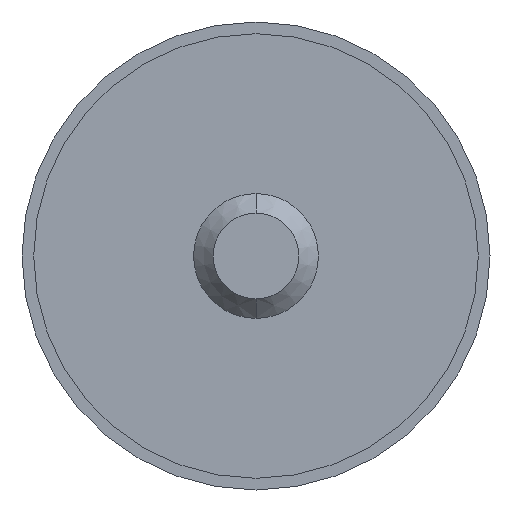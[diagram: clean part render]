
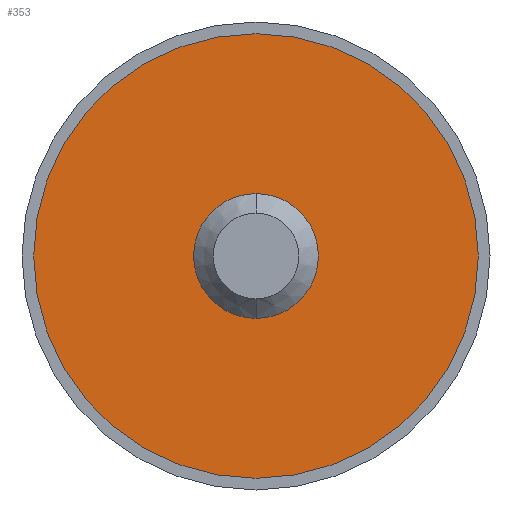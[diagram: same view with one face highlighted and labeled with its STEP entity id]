
A CAD part, front view. The second image highlights one B-rep face of the part: STEP entity #353.
In plain terms, the highlighted planar face has unit normal (0, -1, 0).
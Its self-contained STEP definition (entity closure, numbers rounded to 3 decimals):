
#83 = DIRECTION ( 'NONE',  ( 0., 0., -1. ) ) ;
#114 = CIRCLE ( 'NONE', #1578, 14.25 ) ;
#261 = DIRECTION ( 'NONE',  ( 0., 1., 0. ) ) ;
#353 = ADVANCED_FACE ( 'NONE', ( #1132, #1086 ), #2138, .F. ) ;
#403 = AXIS2_PLACEMENT_3D ( 'NONE', #835, #261, #542 ) ;
#535 = VERTEX_POINT ( 'NONE', #2194 ) ;
#542 = DIRECTION ( 'NONE',  ( 0., 0., 1. ) ) ;
#551 = EDGE_CURVE ( 'NONE', #535, #1153, #2370, .T. ) ;
#656 = CIRCLE ( 'NONE', #403, 14.25 ) ;
#835 = CARTESIAN_POINT ( 'NONE',  ( 0., -1.5, 0. ) ) ;
#902 = DIRECTION ( 'NONE',  ( 0., 0., 1. ) ) ;
#919 = CARTESIAN_POINT ( 'NONE',  ( 0., -1.5, 0. ) ) ;
#1045 = AXIS2_PLACEMENT_3D ( 'NONE', #2794, #1920, #1949 ) ;
#1086 = FACE_OUTER_BOUND ( 'NONE', #1893, .T. ) ;
#1104 = ORIENTED_EDGE ( 'NONE', *, *, #3649, .F. ) ;
#1112 = EDGE_CURVE ( 'NONE', #2454, #2089, #656, .T. ) ;
#1132 = FACE_BOUND ( 'NONE', #2596, .T. ) ;
#1153 = VERTEX_POINT ( 'NONE', #1447 ) ;
#1271 = ORIENTED_EDGE ( 'NONE', *, *, #1112, .F. ) ;
#1447 = CARTESIAN_POINT ( 'NONE',  ( 0., -1.5, 4. ) ) ;
#1485 = ORIENTED_EDGE ( 'NONE', *, *, #551, .F. ) ;
#1547 = ORIENTED_EDGE ( 'NONE', *, *, #3199, .F. ) ;
#1578 = AXIS2_PLACEMENT_3D ( 'NONE', #2720, #2433, #902 ) ;
#1893 = EDGE_LOOP ( 'NONE', ( #1271, #1104 ) ) ;
#1904 = DIRECTION ( 'NONE',  ( 0., -1., 0. ) ) ;
#1920 = DIRECTION ( 'NONE',  ( 0., -1., 0. ) ) ;
#1949 = DIRECTION ( 'NONE',  ( 0., 0., -1. ) ) ;
#2089 = VERTEX_POINT ( 'NONE', #2288 ) ;
#2108 = DIRECTION ( 'NONE',  ( 0., 1., 0. ) ) ;
#2138 = PLANE ( 'NONE',  #3875 ) ;
#2152 = DIRECTION ( 'NONE',  ( 0., 0., 1. ) ) ;
#2194 = CARTESIAN_POINT ( 'NONE',  ( 0., -1.5, -4. ) ) ;
#2288 = CARTESIAN_POINT ( 'NONE',  ( 0., -1.5, -14.25 ) ) ;
#2370 = CIRCLE ( 'NONE', #2792, 4. ) ;
#2433 = DIRECTION ( 'NONE',  ( 0., 1., 0. ) ) ;
#2454 = VERTEX_POINT ( 'NONE', #3320 ) ;
#2596 = EDGE_LOOP ( 'NONE', ( #1547, #1485 ) ) ;
#2720 = CARTESIAN_POINT ( 'NONE',  ( 0., -1.5, 0. ) ) ;
#2792 = AXIS2_PLACEMENT_3D ( 'NONE', #3723, #1904, #83 ) ;
#2794 = CARTESIAN_POINT ( 'NONE',  ( 0., -1.5, 0. ) ) ;
#3100 = CIRCLE ( 'NONE', #1045, 4. ) ;
#3199 = EDGE_CURVE ( 'NONE', #1153, #535, #3100, .T. ) ;
#3320 = CARTESIAN_POINT ( 'NONE',  ( 0., -1.5, 14.25 ) ) ;
#3649 = EDGE_CURVE ( 'NONE', #2089, #2454, #114, .T. ) ;
#3723 = CARTESIAN_POINT ( 'NONE',  ( 0., -1.5, 0. ) ) ;
#3875 = AXIS2_PLACEMENT_3D ( 'NONE', #919, #2108, #2152 ) ;
